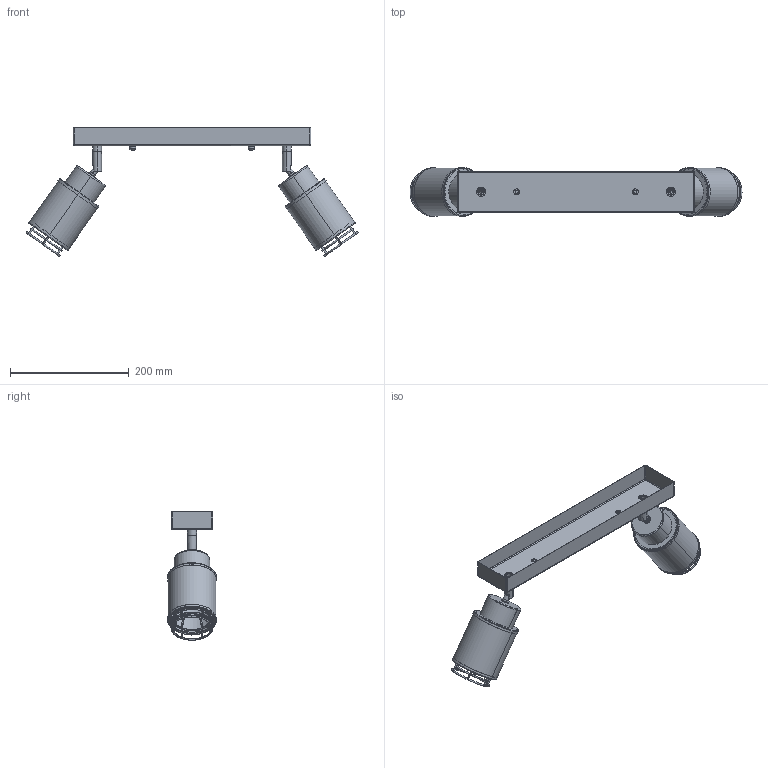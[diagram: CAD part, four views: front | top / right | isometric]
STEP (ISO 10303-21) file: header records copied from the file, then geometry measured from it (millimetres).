
FILE_DESCRIPTION(/* description */ (''),/* implementation_level */ '2;1');
FILE_NAME(/* name */ '2头',/* time_stamp */ '2025-10-08T09:27:42+08:00',/* author */ (''),/* organization */ (''),/* preprocessor_version */ 'ST-DEVELOPER v16.5',/* originating_system */ '',/* authorisation */ '');
FILE_SCHEMA (('CONFIG_CONTROL_DESIGN'));
Length unit declared in the file: millimetre
Products named in the file (1): Document
Bounding box: 559.26 x 82 x 216.36 mm (x, y, z)
Volume: 229911.1 mm3; surface area: 368013.1 mm2
Topology: 45 solids, 51 shells, 488 faces, 998 edges, 572 vertices
Faces by surface type: bspline 222, cylinder 166, plane 100
Entity records: 19150 total; most frequent: CARTESIAN_POINT 12942, ORIENTED_EDGE 1944, EDGE_CURVE 982, VERTEX_POINT 572, EDGE_LOOP 528, ADVANCED_FACE 488, FACE_OUTER_BOUND 488, DIRECTION 269
